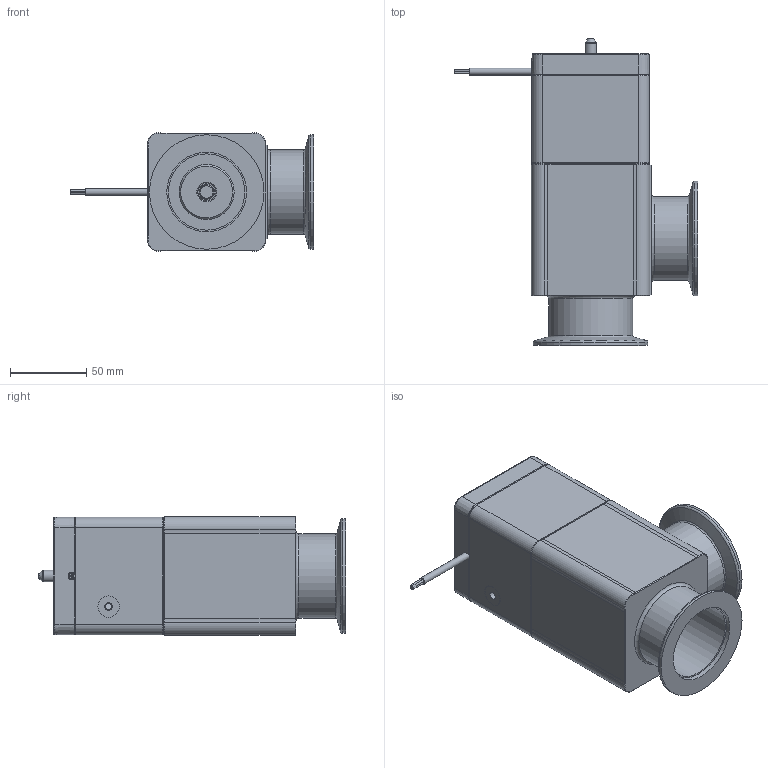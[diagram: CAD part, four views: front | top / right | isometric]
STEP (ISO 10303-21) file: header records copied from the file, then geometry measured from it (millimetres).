
FILE_DESCRIPTION(/* description */ (''),/* implementation_level */ '2;1');
FILE_NAME(/* name */ '1203426256_203.stp',/* time_stamp */ '2013-08-26T13:34:29+02:00',/* author */ (''),/* organization */ (''),/* preprocessor_version */ 'ST-DEVELOPER v11',/* originating_system */ 'SIEMENS PLM Software NX 7.5',/* authorisation */ '');
FILE_SCHEMA (('AP203_CONFIGURATION_CONTROLLED_3D_DESIGN_OF_MECHANICAL_PARTS_AND_ASSEMBLIES_MIM_LF'));
Length unit declared in the file: millimetre
Products named in the file (8): 245144.3; 239888_6.1; 245150; 236204_1.1; 258606.1; 256526.3; 224820.2; 702525
Assembly tree (11 placements, depth 2):
  702525
    224820.2  x4
    256526.3
    258606.1
    236204_1.1  x2
    245150
    239888_6.1
    245144.3
Bounding box: 159.2 x 200.99 x 77.6 mm (x, y, z)
Volume: 515505.8 mm3; surface area: 172588.7 mm2
Topology: 19 solids, 19 shells, 597 faces, 1424 edges, 911 vertices
Faces by surface type: plane 345, cone 116, cylinder 103, bspline 21, torus 12
Full cylindrical faces by diameter (mm): 1.4 x8, 2.5 x2, 2.95 x1, 3 x4, 4.2 x1, 4.6 x2, 4.7 x2, 4.96 x4, 5 x9, 5.6 x2, 6 x8, 6.6 x4, 7.4 x1, 8 x2, 8.175 x1, 9.1 x1, 10 x5, 11.975 x3, 12.015 x2, 13.85 x1, 14 x1, 16.555 x1, 36 x1, 50 x2, 52.2 x2, 55 x2, 63 x1, 63.05 x1, 70.45 x1, 72.85 x1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
Entity records: 16517 total; most frequent: CARTESIAN_POINT 3523, DIRECTION 2373, ORIENTED_EDGE 2244, EDGE_CURVE 1122, AXIS2_PLACEMENT_3D 858, VERTEX_POINT 794, EDGE_LOOP 722, LINE 657
